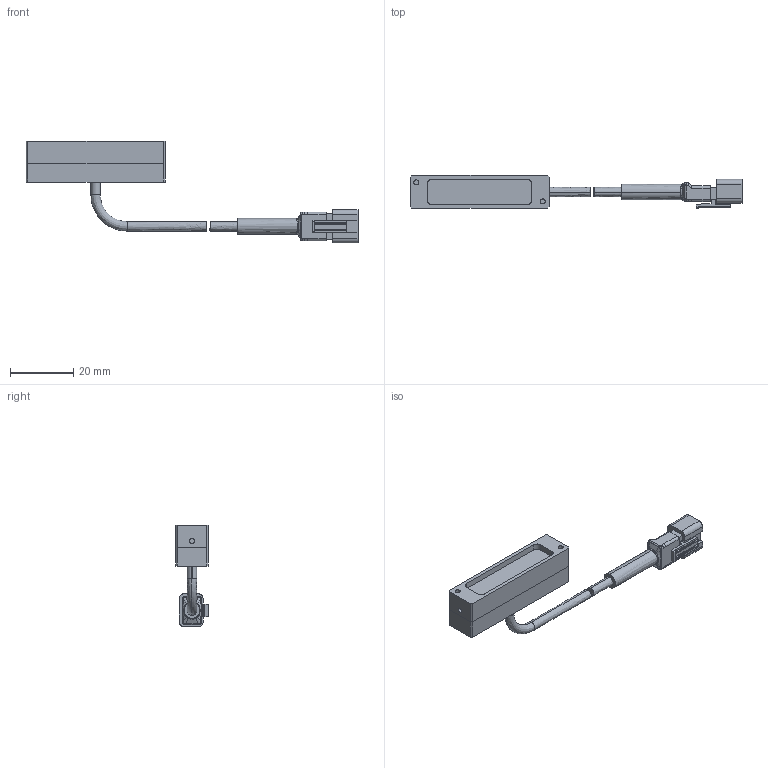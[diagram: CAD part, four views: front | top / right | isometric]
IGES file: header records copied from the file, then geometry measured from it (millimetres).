
Start section: SolidWorks IGES file using NURBS representation for surfaces
Global section: file name: U:\PRODUCTS\80_その他テーマ\RD32114_LDL2-GR2特注の標準化\02_図面\提出用\3D\2_LDL2-33X8GR2\LDL2-33X8GR2.IGS; native system: SolidWorks 2022; preprocessor: SolidWorks 2022; author: nakajimays; date: 241003.114859; units: millimetre
Bounding box: 105 x 10.4 x 32.25 mm (x, y, z)
Surface area: 6564.2 mm2 (no closed solid volume)
Topology: 0 solids, 0 shells, 240 faces, 2512 edges, 2512 vertices
Faces by surface type: bspline 240
